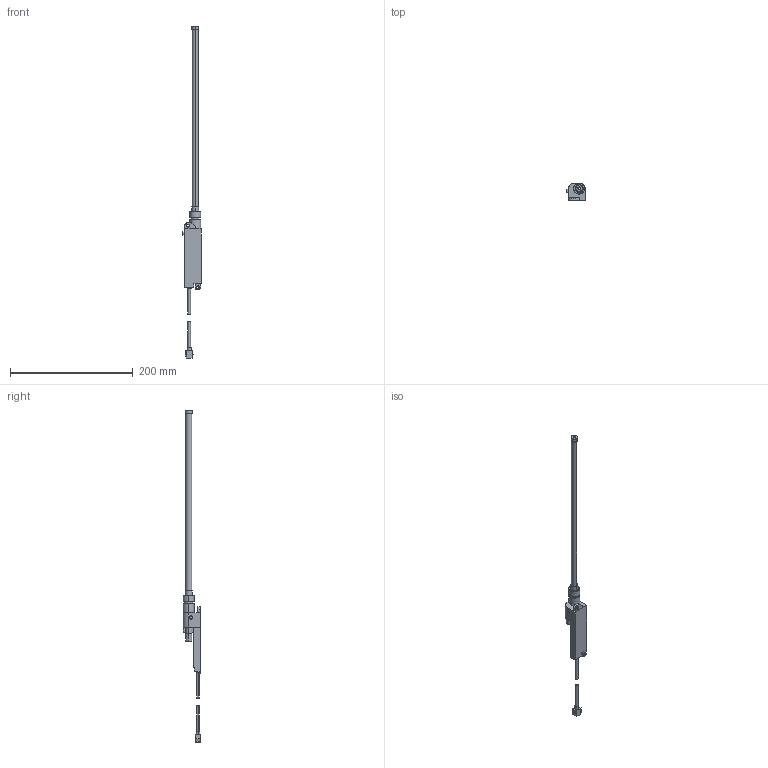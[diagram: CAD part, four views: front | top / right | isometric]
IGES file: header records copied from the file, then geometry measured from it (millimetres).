
Start section: SolidWorks IGES FILE using analytic representation for surfaces
Global section: file name: \\intra-srv04\開発データ\CAD_Data\CAD委員会\3D電子ｶﾀﾛｸﾞ\製品カタログ（新）\0_IGES\ER-VS01(+ER-VAK30).IGS,41HSolidWorks 2004; native system: by SolidWorks Corporation; preprocessor: Version 5.3; author: yk0651; date: 051026.151131; units: millimetre
Bounding box: 29.8 x 28.6 x 540 mm (x, y, z)
Surface area: 31417.8 mm2 (no closed solid volume)
Topology: 0 solids, 0 shells, 163 faces, 2352 edges, 2352 vertices
Faces by surface type: bspline 94, revolution 69
